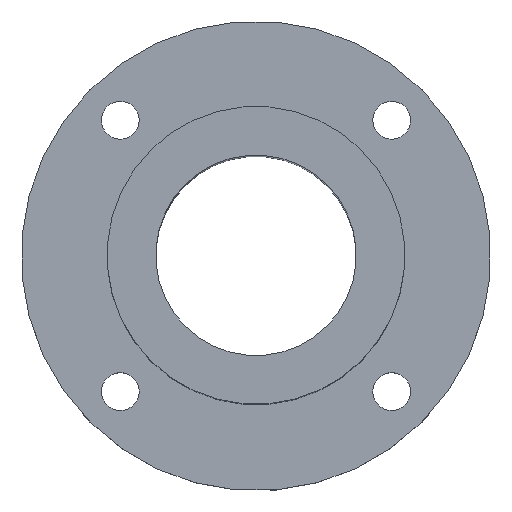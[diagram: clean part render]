
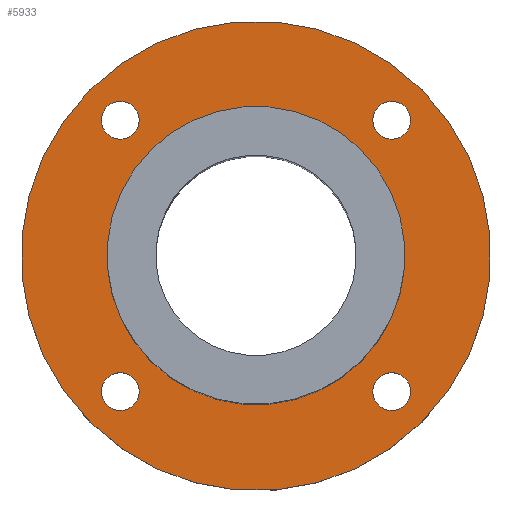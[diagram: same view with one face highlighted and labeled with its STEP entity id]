
A CAD part, top view. The second image highlights one B-rep face of the part: STEP entity #5933.
In plain terms, the highlighted planar face has unit normal (0, 0, 1).
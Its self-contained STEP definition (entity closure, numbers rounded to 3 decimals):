
#112=CIRCLE('',#6304,26.);
#116=CIRCLE('',#6312,41.);
#117=CIRCLE('',#6314,3.3);
#118=CIRCLE('',#6315,3.3);
#119=CIRCLE('',#6316,3.3);
#120=CIRCLE('',#6317,3.3);
#534=ORIENTED_EDGE('',*,*,#2242,.F.);
#535=ORIENTED_EDGE('',*,*,#2243,.F.);
#536=ORIENTED_EDGE('',*,*,#2244,.F.);
#537=ORIENTED_EDGE('',*,*,#2245,.F.);
#538=ORIENTED_EDGE('',*,*,#2237,.T.);
#539=ORIENTED_EDGE('',*,*,#2241,.T.);
#2237=EDGE_CURVE('',#3094,#3094,#112,.F.);
#2241=EDGE_CURVE('',#3098,#3098,#116,.T.);
#2242=EDGE_CURVE('',#3099,#3099,#117,.T.);
#2243=EDGE_CURVE('',#3100,#3100,#118,.T.);
#2244=EDGE_CURVE('',#3101,#3101,#119,.T.);
#2245=EDGE_CURVE('',#3102,#3102,#120,.T.);
#3094=VERTEX_POINT('',#9381);
#3098=VERTEX_POINT('',#9393);
#3099=VERTEX_POINT('',#9396);
#3100=VERTEX_POINT('',#9398);
#3101=VERTEX_POINT('',#9400);
#3102=VERTEX_POINT('',#9402);
#4875=EDGE_LOOP('',(#534));
#4876=EDGE_LOOP('',(#535));
#4877=EDGE_LOOP('',(#536));
#4878=EDGE_LOOP('',(#537));
#4879=EDGE_LOOP('',(#538));
#4880=EDGE_LOOP('',(#539));
#5296=FACE_BOUND('',#4875,.T.);
#5297=FACE_BOUND('',#4876,.T.);
#5298=FACE_BOUND('',#4877,.T.);
#5299=FACE_BOUND('',#4878,.T.);
#5300=FACE_BOUND('',#4879,.T.);
#5301=FACE_BOUND('',#4880,.T.);
#5659=PLANE('',#6313);
#5933=ADVANCED_FACE('',(#5296,#5297,#5298,#5299,#5300,#5301),#5659,.T.);
#6304=AXIS2_PLACEMENT_3D('',#9380,#6852,#6853);
#6312=AXIS2_PLACEMENT_3D('',#9392,#6868,#6869);
#6313=AXIS2_PLACEMENT_3D('',#9394,#6870,#6871);
#6314=AXIS2_PLACEMENT_3D('',#9395,#6872,#6873);
#6315=AXIS2_PLACEMENT_3D('',#9397,#6874,#6875);
#6316=AXIS2_PLACEMENT_3D('',#9399,#6876,#6877);
#6317=AXIS2_PLACEMENT_3D('',#9401,#6878,#6879);
#6852=DIRECTION('',(0.,0.,1.));
#6853=DIRECTION('',(0.707,-0.707,0.));
#6868=DIRECTION('',(0.,0.,1.));
#6869=DIRECTION('',(0.707,-0.707,0.));
#6870=DIRECTION('',(0.,0.,1.));
#6871=DIRECTION('',(0.707,-0.707,0.));
#6872=DIRECTION('',(0.,0.,1.));
#6873=DIRECTION('',(0.707,-0.707,0.));
#6874=DIRECTION('',(0.,0.,1.));
#6875=DIRECTION('',(0.707,-0.707,0.));
#6876=DIRECTION('',(0.,0.,1.));
#6877=DIRECTION('',(0.707,-0.707,0.));
#6878=DIRECTION('',(0.,0.,1.));
#6879=DIRECTION('',(0.707,-0.707,0.));
#9380=CARTESIAN_POINT('',(0.,0.,0.));
#9381=CARTESIAN_POINT('',(18.385,-18.385,0.));
#9392=CARTESIAN_POINT('',(0.,0.,0.));
#9393=CARTESIAN_POINT('',(28.991,-28.991,0.));
#9394=CARTESIAN_POINT('',(0.,0.,0.));
#9395=CARTESIAN_POINT('',(23.688,23.688,0.));
#9396=CARTESIAN_POINT('',(26.022,21.355,0.));
#9397=CARTESIAN_POINT('',(-23.688,23.688,0.));
#9398=CARTESIAN_POINT('',(-21.355,21.355,0.));
#9399=CARTESIAN_POINT('',(-23.688,-23.688,0.));
#9400=CARTESIAN_POINT('',(-21.355,-26.022,0.));
#9401=CARTESIAN_POINT('',(23.688,-23.688,0.));
#9402=CARTESIAN_POINT('',(26.022,-26.022,0.));
